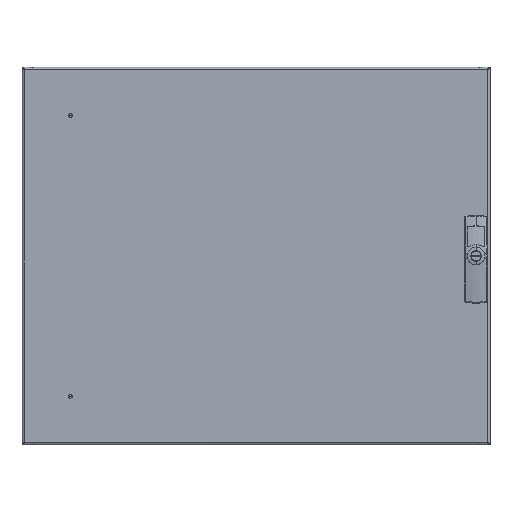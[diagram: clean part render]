
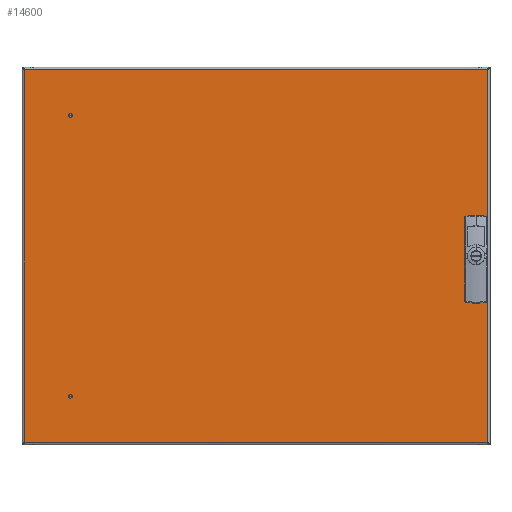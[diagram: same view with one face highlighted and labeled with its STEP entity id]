
A CAD part, top view. The second image highlights one B-rep face of the part: STEP entity #14600.
In plain terms, the highlighted planar face has unit normal (0, 0, 1).
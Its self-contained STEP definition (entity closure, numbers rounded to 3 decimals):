
#1033 = AXIS2_PLACEMENT_3D ( 'NONE', #21250, #21257, #21258 ) ;
#1099 = FACE_BOUND ( 'NONE', #42397, .T. ) ;
#1101 = FACE_BOUND ( 'NONE', #42410, .T. ) ;
#1103 = FACE_OUTER_BOUND ( 'NONE', #42401, .T. ) ;
#1107 = FACE_BOUND ( 'NONE', #42402, .T. ) ;
#1109 = FACE_BOUND ( 'NONE', #42405, .T. ) ;
#1111 = FACE_BOUND ( 'NONE', #42408, .T. ) ;
#8111 = AXIS2_PLACEMENT_3D ( 'NONE', #14671, #14674, #14675 ) ;
#8112 = AXIS2_PLACEMENT_3D ( 'NONE', #14709, #14711, #14713 ) ;
#8114 = AXIS2_PLACEMENT_3D ( 'NONE', #15241, #15243, #15244 ) ;
#8116 = AXIS2_PLACEMENT_3D ( 'NONE', #14666, #14692, #14694 ) ;
#8118 = AXIS2_PLACEMENT_3D ( 'NONE', #15259, #15262, #15263 ) ;
#8122 = AXIS2_PLACEMENT_3D ( 'NONE', #15298, #15301, #15303 ) ;
#8125 = AXIS2_PLACEMENT_3D ( 'NONE', #15293, #15307, #15308 ) ;
#8126 = AXIS2_PLACEMENT_3D ( 'NONE', #15300, #15311, #15313 ) ;
#8336 = CIRCLE ( 'NONE', #8111, 2.248 ) ;
#8341 = CIRCLE ( 'NONE', #8116, 2.248 ) ;
#8348 = CIRCLE ( 'NONE', #8112, 2.248 ) ;
#8354 = CIRCLE ( 'NONE', #8114, 2.248 ) ;
#8360 = CIRCLE ( 'NONE', #8118, 2.248 ) ;
#8362 = LINE ( 'NONE', #14704, #8364 ) ;
#8364 = VECTOR ( 'NONE', #15279, 1000. ) ;
#8367 = LINE ( 'NONE', #15318, #8380 ) ;
#8369 = LINE ( 'NONE', #15295, #8370 ) ;
#8370 = VECTOR ( 'NONE', #15296, 1000. ) ;
#8371 = LINE ( 'NONE', #15315, #8374 ) ;
#8372 = LINE ( 'NONE', #15322, #8382 ) ;
#8373 = CIRCLE ( 'NONE', #8122, 2.248 ) ;
#8374 = VECTOR ( 'NONE', #15317, 1000. ) ;
#8375 = CIRCLE ( 'NONE', #8125, 2.248 ) ;
#8376 = LINE ( 'NONE', #15305, #8378 ) ;
#8377 = CIRCLE ( 'NONE', #8126, 2.248 ) ;
#8378 = VECTOR ( 'NONE', #15321, 1000. ) ;
#8380 = VECTOR ( 'NONE', #15325, 1000. ) ;
#8382 = VECTOR ( 'NONE', #15328, 1000. ) ;
#8384 = LINE ( 'NONE', #15331, #8385 ) ;
#8385 = VECTOR ( 'NONE', #15332, 1000. ) ;
#8386 = LINE ( 'NONE', #15335, #8387 ) ;
#8387 = VECTOR ( 'NONE', #15336, 1000. ) ;
#14600 = ADVANCED_FACE ( 'NONE', ( #1099, #1107, #1109, #1111, #1101, #1103 ), #21254, .T. ) ;
#14666 = CARTESIAN_POINT ( 'NONE',  ( 359.169, -61.925, 1.829 ) ) ;
#14671 = CARTESIAN_POINT ( 'NONE',  ( 385.585, -61.925, 1.829 ) ) ;
#14674 = DIRECTION ( 'NONE',  ( 0., 0., 1. ) ) ;
#14675 = DIRECTION ( 'NONE',  ( 1., 0., 0. ) ) ;
#14692 = DIRECTION ( 'NONE',  ( 0., 0., 1. ) ) ;
#14694 = DIRECTION ( 'NONE',  ( 1., 0., 0. ) ) ;
#14704 = CARTESIAN_POINT ( 'NONE',  ( 381.648, 48.26, 1.829 ) ) ;
#14709 = CARTESIAN_POINT ( 'NONE',  ( 359.169, 61.925, 1.829 ) ) ;
#14711 = DIRECTION ( 'NONE',  ( 0., 0., 1. ) ) ;
#14713 = DIRECTION ( 'NONE',  ( 1., 0., 0. ) ) ;
#15241 = CARTESIAN_POINT ( 'NONE',  ( 385.585, 61.925, 1.829 ) ) ;
#15243 = DIRECTION ( 'NONE',  ( 0., 0., 1. ) ) ;
#15244 = DIRECTION ( 'NONE',  ( 1., 0., 0. ) ) ;
#15259 = CARTESIAN_POINT ( 'NONE',  ( 385.585, 61.925, 1.829 ) ) ;
#15262 = DIRECTION ( 'NONE',  ( 0., 0., 1. ) ) ;
#15263 = DIRECTION ( 'NONE',  ( 1., 0., 0. ) ) ;
#15279 = DIRECTION ( 'NONE',  ( 0., -1., 0. ) ) ;
#15293 = CARTESIAN_POINT ( 'NONE',  ( 385.585, -61.925, 1.829 ) ) ;
#15295 = CARTESIAN_POINT ( 'NONE',  ( 381.648, -48.26, 1.829 ) ) ;
#15296 = DIRECTION ( 'NONE',  ( 1., 0., 0. ) ) ;
#15298 = CARTESIAN_POINT ( 'NONE',  ( 359.169, 61.925, 1.829 ) ) ;
#15300 = CARTESIAN_POINT ( 'NONE',  ( 359.169, -61.925, 1.829 ) ) ;
#15301 = DIRECTION ( 'NONE',  ( 0., 0., 1. ) ) ;
#15303 = DIRECTION ( 'NONE',  ( 1., 0., 0. ) ) ;
#15305 = CARTESIAN_POINT ( 'NONE',  ( 389.522, 48.26, 1.829 ) ) ;
#15307 = DIRECTION ( 'NONE',  ( 0., 0., 1. ) ) ;
#15308 = DIRECTION ( 'NONE',  ( 1., 0., 0. ) ) ;
#15311 = DIRECTION ( 'NONE',  ( 0., 0., 1. ) ) ;
#15313 = DIRECTION ( 'NONE',  ( 1., 0., 0. ) ) ;
#15315 = CARTESIAN_POINT ( 'NONE',  ( 381.648, 48.26, 1.829 ) ) ;
#15317 = DIRECTION ( 'NONE',  ( -1., 0., 0. ) ) ;
#15318 = CARTESIAN_POINT ( 'NONE',  ( -391.681, 317.485, 1.829 ) ) ;
#15321 = DIRECTION ( 'NONE',  ( 0., 1., 0. ) ) ;
#15322 = CARTESIAN_POINT ( 'NONE',  ( 393.889, 315.278, 1.829 ) ) ;
#15325 = DIRECTION ( 'NONE',  ( 0., -1., 0. ) ) ;
#15328 = DIRECTION ( 'NONE',  ( -1., 0., 0. ) ) ;
#15331 = CARTESIAN_POINT ( 'NONE',  ( 391.681, -317.485, 1.829 ) ) ;
#15332 = DIRECTION ( 'NONE',  ( 0., 1., 0. ) ) ;
#15335 = CARTESIAN_POINT ( 'NONE',  ( -393.889, -315.277, 1.829 ) ) ;
#15336 = DIRECTION ( 'NONE',  ( 1., 0., 0. ) ) ;
#21250 = CARTESIAN_POINT ( 'NONE',  ( -395.897, -319.494, 1.829 ) ) ;
#21254 = PLANE ( 'NONE',  #1033 ) ;
#21257 = DIRECTION ( 'NONE',  ( 0., 0., 1. ) ) ;
#21258 = DIRECTION ( 'NONE',  ( 1., 0., 0. ) ) ;
#23808 = VERTEX_POINT ( 'NONE', #31851 ) ;
#23810 = VERTEX_POINT ( 'NONE', #31855 ) ;
#23811 = VERTEX_POINT ( 'NONE', #31857 ) ;
#23814 = VERTEX_POINT ( 'NONE', #31862 ) ;
#23815 = VERTEX_POINT ( 'NONE', #31864 ) ;
#23819 = VERTEX_POINT ( 'NONE', #31872 ) ;
#23820 = VERTEX_POINT ( 'NONE', #31873 ) ;
#23823 = VERTEX_POINT ( 'NONE', #31879 ) ;
#23824 = VERTEX_POINT ( 'NONE', #31881 ) ;
#24021 = VERTEX_POINT ( 'NONE', #32241 ) ;
#24023 = VERTEX_POINT ( 'NONE', #32245 ) ;
#24111 = VERTEX_POINT ( 'NONE', #33405 ) ;
#24118 = VERTEX_POINT ( 'NONE', #33417 ) ;
#24125 = VERTEX_POINT ( 'NONE', #33429 ) ;
#24132 = VERTEX_POINT ( 'NONE', #33441 ) ;
#24139 = VERTEX_POINT ( 'NONE', #33453 ) ;
#30640 = ORIENTED_EDGE ( 'NONE', *, *, #39887, .F. ) ;
#30641 = ORIENTED_EDGE ( 'NONE', *, *, #39861, .F. ) ;
#30642 = ORIENTED_EDGE ( 'NONE', *, *, #39888, .F. ) ;
#30643 = ORIENTED_EDGE ( 'NONE', *, *, #39865, .F. ) ;
#30644 = ORIENTED_EDGE ( 'NONE', *, *, #39886, .F. ) ;
#30645 = ORIENTED_EDGE ( 'NONE', *, *, #39869, .F. ) ;
#30646 = ORIENTED_EDGE ( 'NONE', *, *, #39877, .F. ) ;
#30647 = ORIENTED_EDGE ( 'NONE', *, *, #39873, .F. ) ;
#30648 = ORIENTED_EDGE ( 'NONE', *, *, #39881, .F. ) ;
#30649 = ORIENTED_EDGE ( 'NONE', *, *, #39889, .F. ) ;
#30650 = ORIENTED_EDGE ( 'NONE', *, *, #39890, .F. ) ;
#30651 = ORIENTED_EDGE ( 'NONE', *, *, #39885, .F. ) ;
#30652 = ORIENTED_EDGE ( 'NONE', *, *, #39892, .T. ) ;
#30653 = ORIENTED_EDGE ( 'NONE', *, *, #39891, .T. ) ;
#30654 = ORIENTED_EDGE ( 'NONE', *, *, #39894, .T. ) ;
#30655 = ORIENTED_EDGE ( 'NONE', *, *, #39893, .T. ) ;
#31851 = CARTESIAN_POINT ( 'NONE',  ( 381.648, 48.26, 1.829 ) ) ;
#31855 = CARTESIAN_POINT ( 'NONE',  ( 387.833, 61.925, 1.829 ) ) ;
#31857 = CARTESIAN_POINT ( 'NONE',  ( 383.337, 61.925, 1.829 ) ) ;
#31862 = CARTESIAN_POINT ( 'NONE',  ( 361.417, 61.925, 1.829 ) ) ;
#31864 = CARTESIAN_POINT ( 'NONE',  ( 356.921, 61.925, 1.829 ) ) ;
#31872 = CARTESIAN_POINT ( 'NONE',  ( 361.417, -61.925, 1.829 ) ) ;
#31873 = CARTESIAN_POINT ( 'NONE',  ( 356.921, -61.925, 1.829 ) ) ;
#31879 = CARTESIAN_POINT ( 'NONE',  ( 387.833, -61.925, 1.829 ) ) ;
#31881 = CARTESIAN_POINT ( 'NONE',  ( 383.337, -61.925, 1.829 ) ) ;
#32241 = CARTESIAN_POINT ( 'NONE',  ( 391.681, -315.277, 1.829 ) ) ;
#32245 = CARTESIAN_POINT ( 'NONE',  ( -391.681, -315.277, 1.829 ) ) ;
#33405 = CARTESIAN_POINT ( 'NONE',  ( 389.522, 48.26, 1.829 ) ) ;
#33417 = CARTESIAN_POINT ( 'NONE',  ( 391.681, 315.278, 1.829 ) ) ;
#33429 = CARTESIAN_POINT ( 'NONE',  ( 389.522, -48.26, 1.829 ) ) ;
#33441 = CARTESIAN_POINT ( 'NONE',  ( -391.681, 315.278, 1.829 ) ) ;
#33453 = CARTESIAN_POINT ( 'NONE',  ( 381.648, -48.26, 1.829 ) ) ;
#39861 = EDGE_CURVE ( 'NONE', #23824, #23823, #8336, .T. ) ;
#39865 = EDGE_CURVE ( 'NONE', #23820, #23819, #8341, .T. ) ;
#39869 = EDGE_CURVE ( 'NONE', #23815, #23814, #8348, .T. ) ;
#39873 = EDGE_CURVE ( 'NONE', #23811, #23810, #8354, .T. ) ;
#39877 = EDGE_CURVE ( 'NONE', #23810, #23811, #8360, .T. ) ;
#39881 = EDGE_CURVE ( 'NONE', #23808, #24139, #8362, .T. ) ;
#39885 = EDGE_CURVE ( 'NONE', #24139, #24125, #8369, .T. ) ;
#39886 = EDGE_CURVE ( 'NONE', #23814, #23815, #8373, .T. ) ;
#39887 = EDGE_CURVE ( 'NONE', #23823, #23824, #8375, .T. ) ;
#39888 = EDGE_CURVE ( 'NONE', #23819, #23820, #8377, .T. ) ;
#39889 = EDGE_CURVE ( 'NONE', #24111, #23808, #8371, .T. ) ;
#39890 = EDGE_CURVE ( 'NONE', #24125, #24111, #8376, .T. ) ;
#39891 = EDGE_CURVE ( 'NONE', #24132, #24023, #8367, .T. ) ;
#39892 = EDGE_CURVE ( 'NONE', #24118, #24132, #8372, .T. ) ;
#39893 = EDGE_CURVE ( 'NONE', #24021, #24118, #8384, .T. ) ;
#39894 = EDGE_CURVE ( 'NONE', #24023, #24021, #8386, .T. ) ;
#42397 = EDGE_LOOP ( 'NONE', ( #30640, #30641 ) ) ;
#42401 = EDGE_LOOP ( 'NONE', ( #30652, #30653, #30654, #30655 ) ) ;
#42402 = EDGE_LOOP ( 'NONE', ( #30642, #30643 ) ) ;
#42405 = EDGE_LOOP ( 'NONE', ( #30644, #30645 ) ) ;
#42408 = EDGE_LOOP ( 'NONE', ( #30646, #30647 ) ) ;
#42410 = EDGE_LOOP ( 'NONE', ( #30648, #30649, #30650, #30651 ) ) ;
